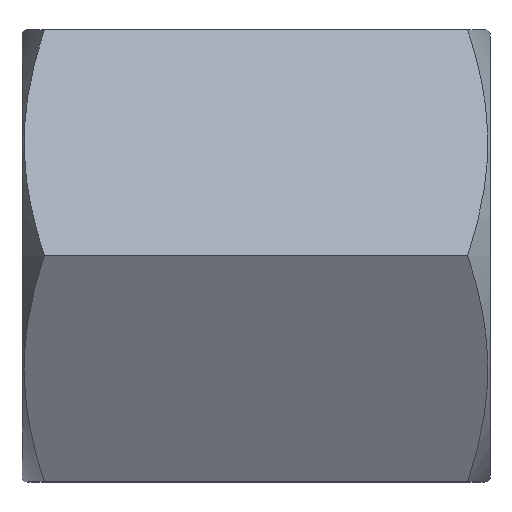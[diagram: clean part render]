
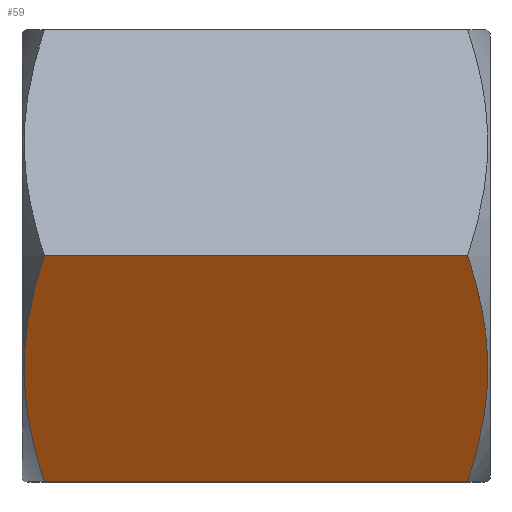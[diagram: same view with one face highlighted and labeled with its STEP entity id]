
A CAD part, top view. The second image highlights one B-rep face of the part: STEP entity #59.
In plain terms, the highlighted planar face has unit normal (0, -0.5, 0.866).
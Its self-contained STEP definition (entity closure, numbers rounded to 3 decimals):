
#59 = ADVANCED_FACE( '', ( #126 ), #127, .F. );
#126 = FACE_OUTER_BOUND( '', #195, .T. );
#127 = PLANE( '', #196 );
#195 = EDGE_LOOP( '', ( #287, #288, #289, #290 ) );
#196 = AXIS2_PLACEMENT_3D( '', #291, #292, #293 );
#287 = ORIENTED_EDGE( '', *, *, #366, .F. );
#288 = ORIENTED_EDGE( '', *, *, #371, .T. );
#289 = ORIENTED_EDGE( '', *, *, #379, .T. );
#290 = ORIENTED_EDGE( '', *, *, #380, .T. );
#291 = CARTESIAN_POINT( '', ( -14.5, -7., 4.041 ) );
#292 = DIRECTION( '', ( 0., 0.5, -0.866 ) );
#293 = DIRECTION( '', ( 0., 0.866, 0.5 ) );
#366 = EDGE_CURVE( '', #423, #425, #426, .T. );
#371 = EDGE_CURVE( '', #423, #431, #433, .T. );
#379 = EDGE_CURVE( '', #431, #444, #445, .T. );
#380 = EDGE_CURVE( '', #444, #425, #446, .T. );
#423 = VERTEX_POINT( '', #515 );
#425 = VERTEX_POINT( '', #528 );
#426 = LINE( '', #529, #530 );
#431 = VERTEX_POINT( '', #546 );
#433 = B_SPLINE_CURVE_WITH_KNOTS( '', 3, ( #557, #558, #559, #560, #561, #562, #563, #564, #565, #566, #567, #568 ), .UNSPECIFIED., .F., .F., ( 4, 2, 2, 2, 2, 4 ), ( 0., 0.002, 0.004, 0.005, 0.006, 0.008 ), .UNSPECIFIED. );
#444 = VERTEX_POINT( '', #599 );
#445 = LINE( '', #600, #601 );
#446 = B_SPLINE_CURVE_WITH_KNOTS( '', 3, ( #602, #603, #604, #605, #606, #607, #608, #609, #610, #611, #612, #613 ), .UNSPECIFIED., .F., .F., ( 4, 2, 2, 2, 2, 4 ), ( 0., 0.002, 0.004, 0.005, 0.006, 0.008 ), .UNSPECIFIED. );
#515 = CARTESIAN_POINT( '', ( -13.807, 0., 8.083 ) );
#528 = CARTESIAN_POINT( '', ( -0.693, 0., 8.083 ) );
#529 = CARTESIAN_POINT( '', ( -14.5, 0., 8.083 ) );
#530 = VECTOR( '', #680, 1000. );
#546 = CARTESIAN_POINT( '', ( -13.807, -7., 4.041 ) );
#557 = CARTESIAN_POINT( '', ( -13.807, 0., 8.083 ) );
#558 = CARTESIAN_POINT( '', ( -13.998, -0.571, 7.753 ) );
#559 = CARTESIAN_POINT( '', ( -14.155, -1.147, 7.421 ) );
#560 = CARTESIAN_POINT( '', ( -14.372, -2.31, 6.749 ) );
#561 = CARTESIAN_POINT( '', ( -14.432, -2.898, 6.41 ) );
#562 = CARTESIAN_POINT( '', ( -14.433, -3.791, 5.894 ) );
#563 = CARTESIAN_POINT( '', ( -14.418, -4.09, 5.722 ) );
#564 = CARTESIAN_POINT( '', ( -14.361, -4.681, 5.38 ) );
#565 = CARTESIAN_POINT( '', ( -14.319, -4.975, 5.211 ) );
#566 = CARTESIAN_POINT( '', ( -14.155, -5.851, 4.705 ) );
#567 = CARTESIAN_POINT( '', ( -13.998, -6.428, 4.372 ) );
#568 = CARTESIAN_POINT( '', ( -13.807, -7., 4.041 ) );
#599 = CARTESIAN_POINT( '', ( -0.693, -7., 4.041 ) );
#600 = CARTESIAN_POINT( '', ( -14.5, -7., 4.041 ) );
#601 = VECTOR( '', #690, 1000. );
#602 = CARTESIAN_POINT( '', ( -0.693, -7., 4.041 ) );
#603 = CARTESIAN_POINT( '', ( -0.502, -6.429, 4.371 ) );
#604 = CARTESIAN_POINT( '', ( -0.345, -5.853, 4.704 ) );
#605 = CARTESIAN_POINT( '', ( -0.128, -4.69, 5.375 ) );
#606 = CARTESIAN_POINT( '', ( -0.068, -4.102, 5.715 ) );
#607 = CARTESIAN_POINT( '', ( -0.067, -3.209, 6.23 ) );
#608 = CARTESIAN_POINT( '', ( -0.082, -2.91, 6.403 ) );
#609 = CARTESIAN_POINT( '', ( -0.139, -2.319, 6.744 ) );
#610 = CARTESIAN_POINT( '', ( -0.181, -2.025, 6.914 ) );
#611 = CARTESIAN_POINT( '', ( -0.345, -1.149, 7.419 ) );
#612 = CARTESIAN_POINT( '', ( -0.502, -0.572, 7.753 ) );
#613 = CARTESIAN_POINT( '', ( -0.693, 0., 8.083 ) );
#680 = DIRECTION( '', ( 1., 0., 0. ) );
#690 = DIRECTION( '', ( 1., 0., 0. ) );
